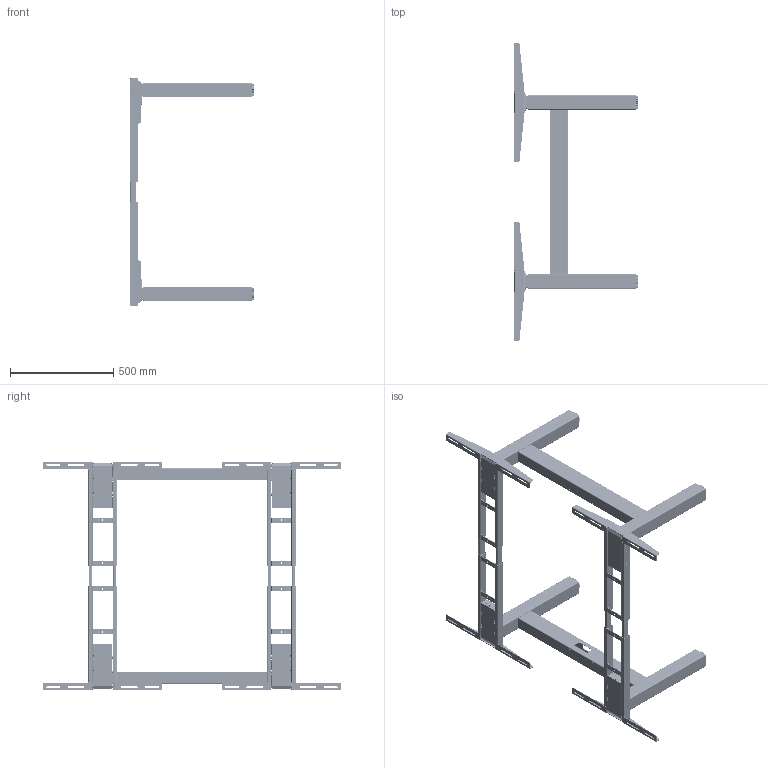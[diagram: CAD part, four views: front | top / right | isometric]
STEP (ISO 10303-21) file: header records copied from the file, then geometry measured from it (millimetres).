
FILE_DESCRIPTION((''),'2;1');
FILE_NAME('0_ASM','2024-09-18T20:03:42',('104003'),('捷昌驱动'),'CREO PARAMETRIC BY PTC INC, 2018100','CREO PARAMETRIC BY PTC INC, 2018100','');
FILE_SCHEMA(('CONFIG_CONTROL_DESIGN'));
Products named in the file (31): VC35TS-3021_3_1_1; VC35TS-2542_1_1_1; VC35TS-2536_3_1_1; VS36DR-3100_2_1_1_1; VS36DS-0248_1_1_1_1; VS36DS-1242_1_1_1_1; VC35TS-4138_ASM_1_ASM_1_ASM_1_A_ASM; VC35TS-4798_1_1_1_1; VC35TS-4799_1_1_1_1; VCSP-0688_1_1_1_1; VC35TS-2540_2_1_1_1; VS36DS-1130_1_1_1_1; VS36DS-0232_2_1_1; VS36DS-0125_2_1_1; VS36DR-4015_1_1_1; VC35TT-0093_2_1_1; VC35TS-0380_1_1_1_1; VC35TS-0380_1_2_1_1; VC35TS-0380_1_ASM_1_ASM_1_ASM; VS36DS-0357_ASM_13_ASM_1_ASM_1_ASM; 161863_ASM_1_ASM_1_ASM; 827212_ASM_1_ASM_1_ASM; D10-EZ4-DS5-TS_ASM_22_RNM_ASM_1_ASM; _AF0_5_RNM_1_1; 0007_ASM_5_RNM_ASM_1_ASM_1_ASM; VC35PJ-1750_1_1_1; 0006_ASM_9_RNM_ASM_1_ASM_1_ASM; TF-EZ4_ASM_55_RNM_ASM_1_ASM_1_ASM; TF-A_RNM_ASM_1_ASM_1_ASM; D010DS1-EZ4-TFPF_X0001_ASM_1_ASM; 0_ASM
Assembly tree (45 placements, depth 9):
  0_ASM
    D010DS1-EZ4-TFPF_X0001_ASM_1_ASM
      TF-A_RNM_ASM_1_ASM_1_ASM
        TF-EZ4_ASM_55_RNM_ASM_1_ASM_1_ASM
          D10-EZ4-DS5-TS_ASM_22_RNM_ASM_1_ASM  x2
            VC35TS-3021_3_1_1
            VC35TS-2542_1_1_1
            VC35TS-2536_3_1_1
            161863_ASM_1_ASM_1_ASM
              VC35TS-4138_ASM_1_ASM_1_ASM_1_A_ASM
                VS36DR-3100_2_1_1_1
                VS36DS-0248_1_1_1_1
                VS36DS-1242_1_1_1_1
              VC35TS-4798_1_1_1_1
              VC35TS-4799_1_1_1_1
              VCSP-0688_1_1_1_1  x2
              VC35TS-2540_2_1_1_1
              VS36DS-1130_1_1_1_1
              VS36DS-0357_ASM_13_ASM_1_ASM_1_ASM
                VS36DS-0232_2_1_1
                VS36DS-0125_2_1_1
                VS36DR-4015_1_1_1
                VC35TT-0093_2_1_1
                VC35TS-0380_1_ASM_1_ASM_1_ASM
                  VC35TS-0380_1_1_1_1
                  VC35TS-0380_1_2_1_1
            827212_ASM_1_ASM_1_ASM
              VC35TS-4138_ASM_1_ASM_1_ASM_1_A_ASM
                VS36DR-3100_2_1_1_1
                VS36DS-0248_1_1_1_1
                VS36DS-1242_1_1_1_1
              VC35TS-4798_1_1_1_1
              VC35TS-4799_1_1_1_1
              VCSP-0688_1_1_1_1  x2
              VC35TS-2540_2_1_1_1
              VS36DS-1130_1_1_1_1
              VS36DS-0357_ASM_13_ASM_1_ASM_1_ASM
                VS36DS-0232_2_1_1
                VS36DS-0125_2_1_1
                VS36DR-4015_1_1_1
                VC35TT-0093_2_1_1
                VC35TS-0380_1_ASM_1_ASM_1_ASM
                  VC35TS-0380_1_1_1_1
                  VC35TS-0380_1_2_1_1
          0006_ASM_9_RNM_ASM_1_ASM_1_ASM  x2
            0007_ASM_5_RNM_ASM_1_ASM_1_ASM
              _AF0_5_RNM_1_1
            VC35PJ-1750_1_1_1
Bounding box: 602 x 1440 x 1105 mm (x, y, z)
Volume: 6388505.4 mm3; surface area: 6611728.2 mm2
Topology: 74 solids, 258 shells, 10380 faces, 32956 edges, 23056 vertices
Faces by surface type: cylinder 5684, plane 3980, torus 280, cone 232, bspline 180, sphere 24
Entity records: 103063 total; most frequent: CARTESIAN_POINT 26415, DIRECTION 16524, ORIENTED_EDGE 16144, EDGE_CURVE 8195, AXIS2_PLACEMENT_3D 6248, VERTEX_POINT 5743, VECTOR 4028, LINE 4028
